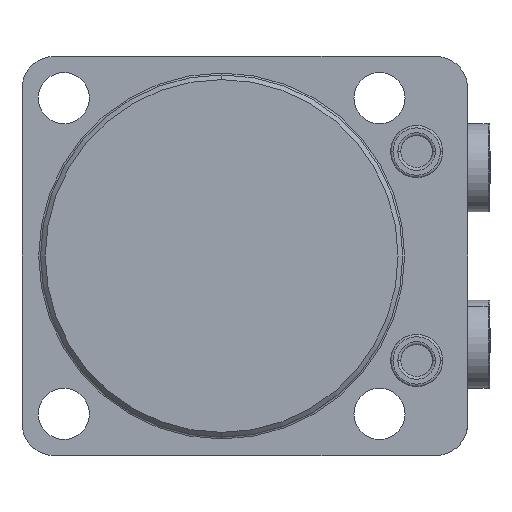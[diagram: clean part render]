
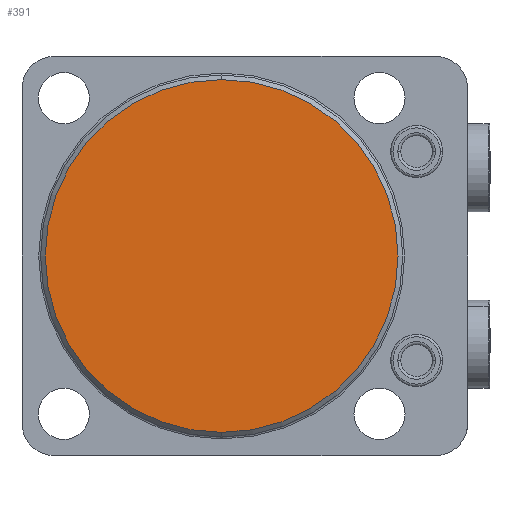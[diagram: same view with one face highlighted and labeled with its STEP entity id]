
A CAD part, front view. The second image highlights one B-rep face of the part: STEP entity #391.
In plain terms, the highlighted planar face has unit normal (0, -1, 0) as drawn and (0, 1, 0) by its records, which use the part's own axes.
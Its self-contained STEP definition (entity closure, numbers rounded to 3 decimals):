
#229=PLANE('',#3160);
#391=ADVANCED_FACE('',(#635),#229,.T.);
#635=FACE_OUTER_BOUND('',#813,.F.);
#813=EDGE_LOOP('',(#1414,#1415));
#1042=CIRCLE('',#3124,38.);
#1064=CIRCLE('',#3159,38.);
#1414=ORIENTED_EDGE('',*,*,#2446,.T.);
#1415=ORIENTED_EDGE('',*,*,#2385,.T.);
#2098=VERTEX_POINT('',#4638);
#2099=VERTEX_POINT('',#4639);
#2385=EDGE_CURVE('',#2098,#2099,#1042,.T.);
#2446=EDGE_CURVE('',#2099,#2098,#1064,.T.);
#3124=AXIS2_PLACEMENT_3D('',#4637,#3668,#3669);
#3159=AXIS2_PLACEMENT_3D('',#4767,#3772,#3773);
#3160=AXIS2_PLACEMENT_3D('',#4768,#3774,#3775);
#3668=DIRECTION('',(0.,-1.,0.));
#3669=DIRECTION('',(0.,0.,1.));
#3772=DIRECTION('',(0.,-1.,0.));
#3773=DIRECTION('',(0.,0.,1.));
#3774=DIRECTION('',(0.,1.,0.));
#3775=DIRECTION('',(0.,0.,1.));
#4637=CARTESIAN_POINT('',(0.,0.,0.));
#4638=CARTESIAN_POINT('',(0.,0.,-38.));
#4639=CARTESIAN_POINT('',(0.,0.,38.));
#4767=CARTESIAN_POINT('',(0.,0.,0.));
#4768=CARTESIAN_POINT('',(-43.,0.,43.));
